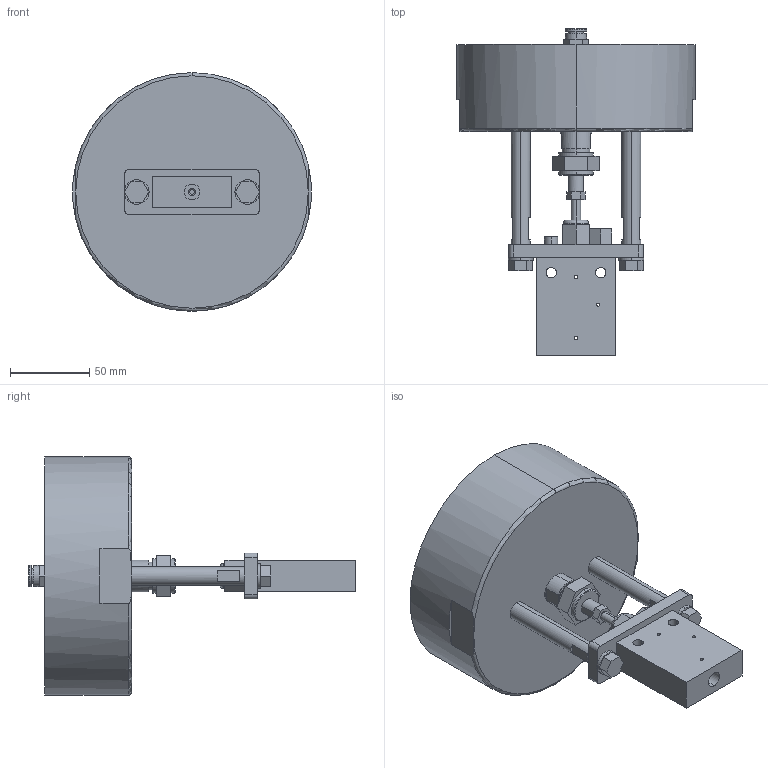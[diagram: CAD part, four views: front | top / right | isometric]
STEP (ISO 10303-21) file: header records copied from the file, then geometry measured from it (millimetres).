
FILE_DESCRIPTION (( 'STEP AP203' ), '1' );
FILE_NAME ('AOV20OS04-A.STEP', '2024-11-06T07:42:18', ( '' ), ( '' ), 'SwSTEP 2.0', 'SolidWorks 2023', '' );
FILE_SCHEMA (( 'CONFIG_CONTROL_DESIGN' ));
Length unit declared in the file: millimetre
Products named in the file (1): AOV20OS04-A
Bounding box: 151 x 206.56 x 151 mm (x, y, z)
Volume: 1013024.4 mm3; surface area: 93737.1 mm2
Topology: 2 solids, 2 shells, 220 faces, 524 edges, 335 vertices
Faces by surface type: plane 132, cylinder 71, cone 10, torus 7
Entity records: 6658 total; most frequent: CARTESIAN_POINT 1320, DIRECTION 1131, ORIENTED_EDGE 1044, EDGE_CURVE 522, AXIS2_PLACEMENT_3D 404, VERTEX_POINT 335, VECTOR 323, LINE 323
